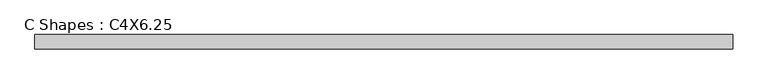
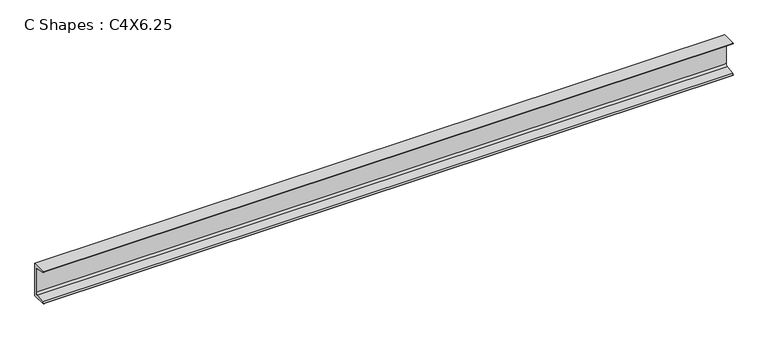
"""IFC4 building model written with IfcOpenShell, lengths in millimetres: beam geometry, C Shapes : C4X6.25."""

from ifc_helpers import new_model, si_unit, point, frame, frame_2d, origin, place, context, project, spatial, polyline, circle_curve, trimmed, segment, composite_curve, outline, extrude, source, transform, mapped, element, save


def c_shapes_c4x6_25_f7e6f879(model_context):
    return source(origin(), model_context, "Body", "SweptSolid", [
        extrude(outline(composite_curve([segment(polyline([(11.049, 50.8), (11.049, -50.8), (-30.861, -50.8), (-30.861, -49.7865772)]), True, "CONTINUOUS"), segment(trimmed(circle_curve(frame_2d((-27.4066, -49.7865772)), 3.4544), [point((-30.861, -49.7865772))], [point((-27.9743618, -46.379155))], False, "CARTESIAN"), True, "CONTINUOUS"), segment(polyline([(-27.9743618, -46.379155), (-0.9980765, -41.8842311)]), True, "CONTINUOUS"), segment(trimmed(circle_curve(frame_2d((-2.1336, -35.0693868)), 6.9088), [point((-0.9980765, -41.8842311))], [point((4.7752, -35.0693868))], True, "CARTESIAN"), True, "CONTINUOUS"), segment(polyline([(4.7752, -35.0693868), (4.7752, 35.0693868)]), True, "CONTINUOUS"), segment(trimmed(circle_curve(frame_2d((-2.1336, 35.0693868)), 6.9088), [point((4.7752, 35.0693868))], [point((-0.9980765, 41.8842311))], True, "CARTESIAN"), True, "CONTINUOUS"), segment(polyline([(-0.9980765, 41.8842311), (-27.9743618, 46.379155)]), True, "CONTINUOUS"), segment(trimmed(circle_curve(frame_2d((-27.4066, 49.7865772)), 3.4544), [point((-27.9743618, 46.379155))], [point((-30.861, 49.7865772))], False, "CARTESIAN"), True, "CONTINUOUS"), segment(polyline([(-30.861, 49.7865772), (-30.861, 50.8), (11.049, 50.8)]), True, "CONTINUOUS")], self_intersect=False)), frame((-1022.4316429, 0.0, 0.0), z_axis=(1.0, 0.0, 0.0), x_axis=(0.0, 1.0, 0.0)), (0.0, 0.0, 1.0), 2044.8632857),
    ])


if __name__ == "__main__":
    model = new_model("IFC4")
    model_context = context("Model", 3, world=origin())
    ifc_project = project(units=[si_unit("LENGTHUNIT", "METRE", prefix="MILLI")], contexts=[model_context])
    site = spatial("IfcSite", under=ifc_project)
    building = spatial("IfcBuilding", under=site)
    placement = place(None, origin())
    c_shapes_c4x6_25_shape = c_shapes_c4x6_25_f7e6f879(model_context)
    element("IfcBeam", 1, ObjectType="C Shapes : C4X6.25", at=placement, inside=building, context=model_context, shape_type="MappedRepresentation", body=[
        mapped(c_shapes_c4x6_25_shape, transform((0.0, 0.0, 0.0), x_axis=(1.0, 0.0, 0.0), y_axis=(0.0, 1.0, 0.0), z_axis=(0.0, 0.0, 1.0))),
    ])
    save(model, "model.ifc")
